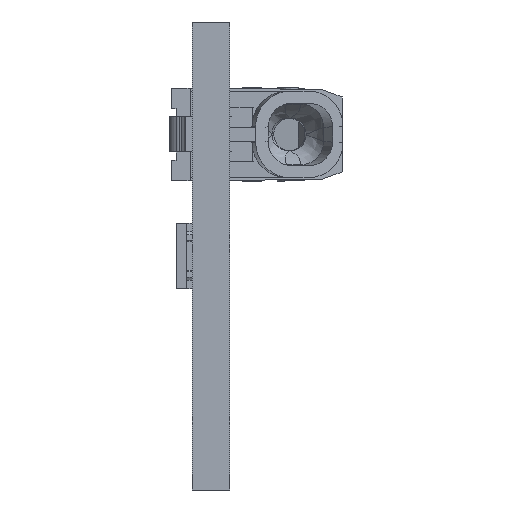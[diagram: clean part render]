
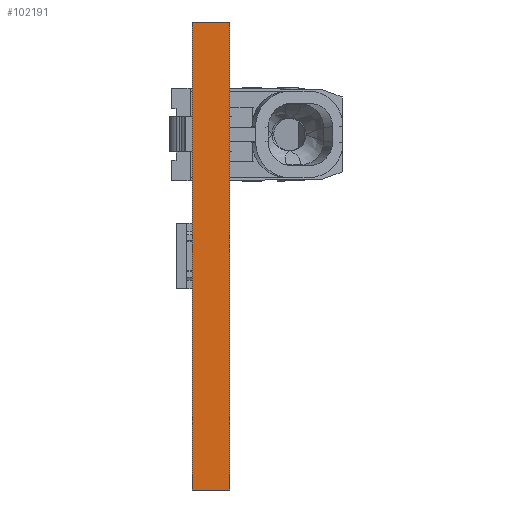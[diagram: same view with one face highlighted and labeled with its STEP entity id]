
A CAD part, left-side view. The second image highlights one B-rep face of the part: STEP entity #102191.
In plain terms, the highlighted planar face has unit normal (-1, 0, 0).
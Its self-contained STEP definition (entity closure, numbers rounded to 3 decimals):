
#10094=DIRECTION('',(0.,0.,1.));
#10095=VECTOR('',#10094,20.);
#10096=CARTESIAN_POINT('',(-139.5,0.,-14.));
#10097=LINE('',#10096,#10095);
#29782=DIRECTION('',(0.,0.,1.));
#29783=VECTOR('',#29782,20.);
#29784=CARTESIAN_POINT('',(-139.5,-1.6,-14.));
#29785=LINE('',#29784,#29783);
#30102=DIRECTION('',(0.,-1.,0.));
#30103=VECTOR('',#30102,1.6);
#30104=CARTESIAN_POINT('',(-139.5,0.,6.));
#30105=LINE('',#30104,#30103);
#30106=DIRECTION('',(0.,-1.,0.));
#30107=VECTOR('',#30106,1.6);
#30108=CARTESIAN_POINT('',(-139.5,0.,-14.));
#30109=LINE('',#30108,#30107);
#30320=CARTESIAN_POINT('',(-139.5,0.,-14.));
#30321=VERTEX_POINT('',#30320);
#30322=CARTESIAN_POINT('',(-139.5,0.,6.));
#30323=VERTEX_POINT('',#30322);
#30464=CARTESIAN_POINT('',(-139.5,-1.6,-14.));
#30465=VERTEX_POINT('',#30464);
#30466=CARTESIAN_POINT('',(-139.5,-1.6,6.));
#30467=VERTEX_POINT('',#30466);
#102179=CARTESIAN_POINT('',(-139.5,0.,-14.));
#102180=DIRECTION('',(-1.,0.,0.));
#102181=DIRECTION('',(0.,0.,1.));
#102182=AXIS2_PLACEMENT_3D('',#102179,#102180,#102181);
#102183=PLANE('',#102182);
#102184=ORIENTED_EDGE('',*,*,#41639,.T.);
#102185=ORIENTED_EDGE('',*,*,#102167,.T.);
#102186=ORIENTED_EDGE('',*,*,#100852,.F.);
#102188=ORIENTED_EDGE('',*,*,#102187,.F.);
#102189=EDGE_LOOP('',(#102184,#102185,#102186,#102188));
#102190=FACE_OUTER_BOUND('',#102189,.F.);
#41639=EDGE_CURVE('',#30321,#30323,#10097,.T.);
#100852=EDGE_CURVE('',#30465,#30467,#29785,.T.);
#102167=EDGE_CURVE('',#30323,#30467,#30105,.T.);
#102187=EDGE_CURVE('',#30321,#30465,#30109,.T.);
#102191=ADVANCED_FACE('',(#102190),#102183,.T.);
